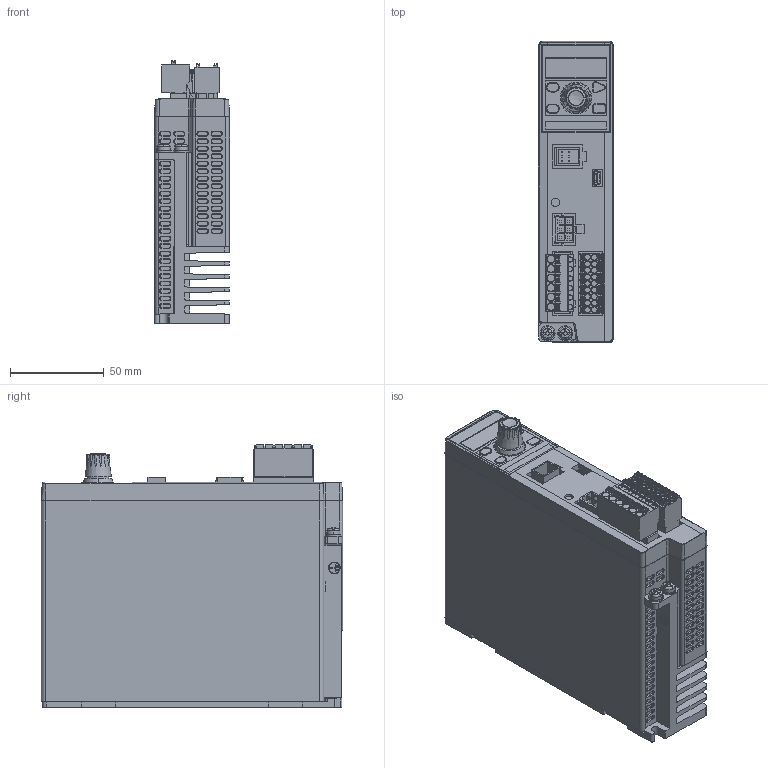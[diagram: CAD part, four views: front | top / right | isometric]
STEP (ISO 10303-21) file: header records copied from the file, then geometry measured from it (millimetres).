
FILE_DESCRIPTION (( 'STEP AP203' ), '1' );
FILE_NAME ('A1461.STEP', '2015-07-01T03:24:43', ( 'om' ), ( 'Hewlett-Packard Company' ), 'SwSTEP 2.0', 'SolidWorks 2014', '' );
FILE_SCHEMA (( 'CONFIG_CONTROL_DESIGN' ));
Products named in the file (1): A1461
Bounding box: 40.1 x 160.8 x 140.4 mm (x, y, z)
Volume: 674424.9 mm3; surface area: 117363.7 mm2
Topology: 1 solids, 17 shells, 3561 faces, 9423 edges, 6110 vertices
Faces by surface type: plane 1921, cylinder 989, bspline 551, cone 88, torus 12
Entity records: 147312 total; most frequent: CARTESIAN_POINT 63542, ORIENTED_EDGE 18832, DIRECTION 15145, EDGE_CURVE 9416, VERTEX_POINT 6110, LINE 5737, VECTOR 5737, AXIS2_PLACEMENT_3D 4704
